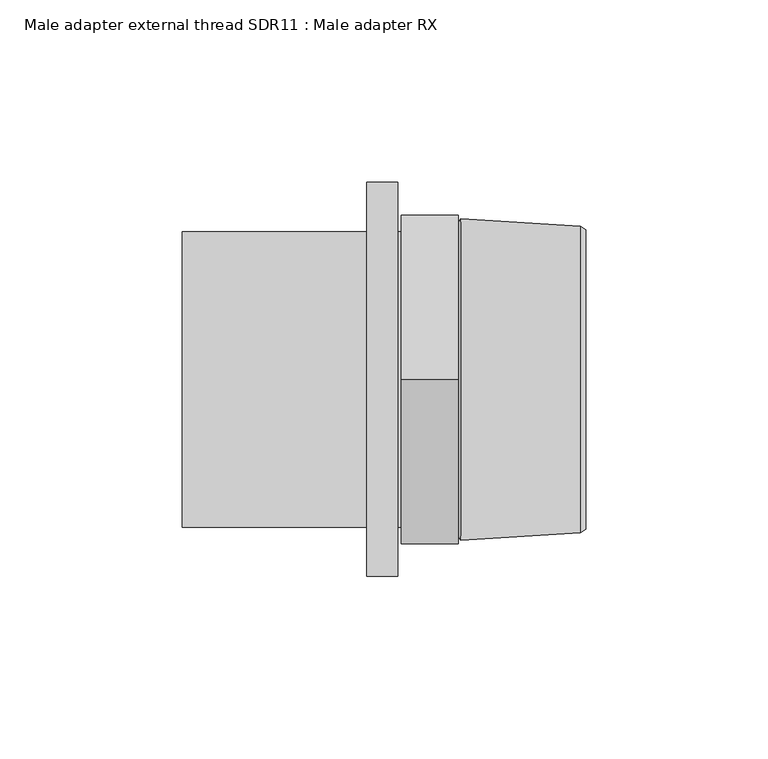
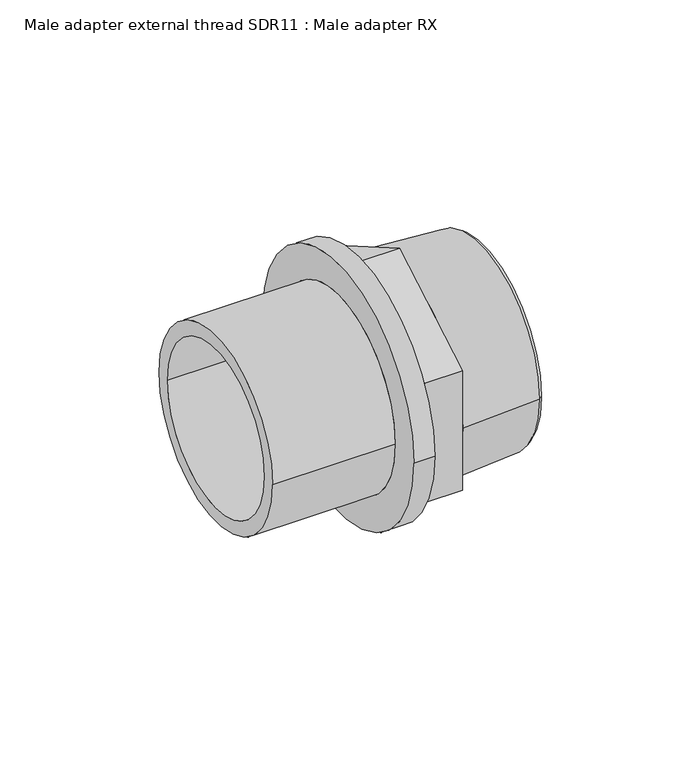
"""IFC4 building model written with IfcOpenShell, lengths in millimetres: pipe fitting geometry, Male adapter external thread SDR11 : Male adapter RX."""

from ifc_helpers import new_model, si_unit, frame, origin, place, context, project, spatial, polyline, circle_curve, outline, extrude, source, transform, mapped, element, save
from ifc_brep_helpers import plane_surface, cylinder_surface, revolved_surface, advanced_brep


def male_adapter_external_thread_sdr11_male_adapter_rx_7419d65c(model_context):
    return source(origin(), model_context, "Body", "SolidModel", [
        advanced_brep(
        [(-9.5, 40.5, 0.0), (-9.5, -40.5, 0.0), (-60.0, -40.5, 0.0), (-60.0, 40.5, 0.0), (-1.0, 54.0, 0.0), (-1.0, -54.0, 0.0), (-9.5, -54.0, 0.0), (-9.5, 54.0, 0.0), (0.0, 40.5, 0.0), (0.0, -40.5, 0.0), (-1.0, -40.5, 0.0), (-1.0, 40.5, 0.0), (-60.0, 34.5, 0.0), (-60.0, -34.5, 0.0), (0.0, -34.5, 0.0), (0.0, 34.5, 0.0)],
        [
            (0, 1, circle_curve(frame((-9.5, 0.0, 0.0), z_axis=(-1.0, 0.0, 0.0), x_axis=(0.0, -1.0, 0.0)), 40.5)),
            (1, 2),
            (2, 3, circle_curve(frame((-60.0, 0.0, 0.0), z_axis=(1.0, 0.0, 0.0), x_axis=(0.0, -1.0, 0.0)), 40.5)),
            (3, 0),
            (4, 5, circle_curve(frame((-1.0, 0.0, 0.0), z_axis=(-1.0, 0.0, 0.0), x_axis=(0.0, -1.0, 0.0)), 54.0)),
            (5, 6),
            (6, 7, circle_curve(frame((-9.5, 0.0, 0.0), z_axis=(1.0, 0.0, 0.0), x_axis=(0.0, -1.0, 0.0)), 54.0)),
            (7, 4),
            (8, 9, circle_curve(frame((0.0, 0.0, 0.0), z_axis=(-1.0, 0.0, 0.0), x_axis=(0.0, -1.0, 0.0)), 40.5)),
            (9, 10),
            (10, 11, circle_curve(frame((-1.0, 0.0, 0.0), z_axis=(1.0, 0.0, 0.0), x_axis=(0.0, -1.0, 0.0)), 40.5)),
            (11, 8),
            (12, 13, circle_curve(frame((-60.0, 0.0, 0.0), z_axis=(-1.0, 0.0, 0.0), x_axis=(0.0, -1.0, 0.0)), 34.5)),
            (13, 14),
            (14, 15, circle_curve(frame((0.0, 0.0, 0.0), z_axis=(1.0, 0.0, 0.0), x_axis=(0.0, -1.0, 0.0)), 34.5)),
            (15, 12),
            (2, 3, circle_curve(frame((-60.0, 0.0, 0.0), z_axis=(-1.0, 0.0, 0.0), x_axis=(0.0, 1.0, 0.0)), 40.5)),
            (12, 13, circle_curve(frame((-60.0, 0.0, 0.0), z_axis=(1.0, 0.0, 0.0), x_axis=(0.0, 1.0, 0.0)), 34.5)),
            (1, 0, circle_curve(frame((-9.5, 0.0, 0.0), z_axis=(-1.0, 0.0, 0.0), x_axis=(0.0, 1.0, 0.0)), 40.5)),
            (6, 7, circle_curve(frame((-9.5, 0.0, 0.0), z_axis=(-1.0, 0.0, 0.0), x_axis=(0.0, 1.0, 0.0)), 54.0)),
            (5, 4, circle_curve(frame((-1.0, 0.0, 0.0), z_axis=(-1.0, 0.0, 0.0), x_axis=(0.0, 1.0, 0.0)), 54.0)),
            (10, 11, circle_curve(frame((-1.0, 0.0, 0.0), z_axis=(-1.0, 0.0, 0.0), x_axis=(0.0, 1.0, 0.0)), 40.5)),
            (9, 8, circle_curve(frame((0.0, 0.0, 0.0), z_axis=(-1.0, 0.0, 0.0), x_axis=(0.0, 1.0, 0.0)), 40.5)),
            (14, 15, circle_curve(frame((0.0, 0.0, 0.0), z_axis=(-1.0, 0.0, 0.0), x_axis=(0.0, 1.0, 0.0)), 34.5)),
        ],
        [
            cylinder_surface(frame((0.0, 0.0, 0.0), z_axis=(1.0, 0.0, 0.0), x_axis=(0.0, -1.0, 0.0)), 40.5),
            cylinder_surface(frame((0.0, 0.0, 0.0), z_axis=(1.0, 0.0, 0.0), x_axis=(0.0, -1.0, 0.0)), 54.0),
            revolved_surface(polyline([(0.0, -34.5, 0.0), (-60.0, -34.5, 0.0)]), (0.0, 0.0, 0.0), (1.0, 0.0, 0.0)),
            plane_surface(frame((-60.0, 0.0, 0.0), z_axis=(-1.0, 0.0, 0.0), x_axis=(0.0, 1.0, 0.0))),
            cylinder_surface(frame((0.0, 0.0, 0.0), z_axis=(1.0, 0.0, 0.0), x_axis=(0.0, 1.0, 0.0)), 40.5),
            plane_surface(frame((-9.5, 0.0, 0.0), z_axis=(-1.0, 0.0, 0.0), x_axis=(0.0, 1.0, 0.0))),
            cylinder_surface(frame((0.0, 0.0, 0.0), z_axis=(1.0, 0.0, 0.0), x_axis=(0.0, 1.0, 0.0)), 54.0),
            plane_surface(frame((-1.0, 0.0, 0.0), z_axis=(1.0, 0.0, 0.0), x_axis=(0.0, 1.0, 0.0))),
            plane_surface(frame((0.0, 0.0, 0.0), z_axis=(1.0, 0.0, 0.0), x_axis=(0.0, 1.0, 0.0))),
            revolved_surface(polyline([(0.0, 34.5, 0.0), (-60.0, 34.5, 0.0)]), (0.0, 0.0, 0.0), (1.0, 0.0, 0.0)),
        ],
        [
            (0, [[1, 2, 3, 4]]),
            (1, [[5, 6, 7, 8]]),
            (0, [[9, 10, 11, 12]]),
            (2, [[13, 14, 15, 16]]),
            (3, [[17, -3], [18, -13]]),
            (4, [[19, -4, -17, -2]]),
            (5, [[20, -7], [-19, -1]]),
            (6, [[21, -8, -20, -6]]),
            (7, [[-21, -5], [22, -11]]),
            (4, [[23, -12, -22, -10]]),
            (8, [[-23, -9], [24, -15]]),
            (9, [[-18, -16, -24, -14]]),
        ],
    ),
        advanced_brep(
        [(16.7032803, 38.0, 0.0), (16.7032803, -38.0, 0.0), (50.5, -38.0, 0.0), (50.5, 38.0, 0.0), (15.6, 36.8967197, 0.0), (15.6, -36.8967197, 0.0), (16.3406902, 44.0, 0.0), (16.3406902, -44.0, 0.0), (15.6, -43.0, 0.0), (15.6, 43.0, 0.0), (49.0000007, 42.0, 0.0), (49.0000007, -42.0, 0.0), (50.5, 41.0, 0.0), (50.5, -41.0, 0.0)],
        [
            (0, 1, circle_curve(frame((16.7032803, 0.0, 0.0), z_axis=(-1.0, 0.0, 0.0), x_axis=(0.0, -1.0, 0.0)), 38.0)),
            (1, 2),
            (2, 3, circle_curve(frame((50.5, 0.0, 0.0), z_axis=(1.0, 0.0, 0.0), x_axis=(0.0, -1.0, 0.0)), 38.0)),
            (3, 0),
            (4, 5, circle_curve(frame((15.6, 0.0, 0.0), z_axis=(-1.0, 0.0, 0.0), x_axis=(0.0, -1.0, 0.0)), 36.8967197)),
            (5, 1),
            (0, 4),
            (6, 7, circle_curve(frame((16.3406902, 0.0, 0.0), z_axis=(-1.0, 0.0, 0.0), x_axis=(0.0, -1.0, 0.0)), 44.0)),
            (7, 8),
            (8, 9, circle_curve(frame((15.6, 0.0, 0.0), z_axis=(1.0, 0.0, 0.0), x_axis=(0.0, -1.0, 0.0)), 43.0)),
            (9, 6),
            (10, 11, circle_curve(frame((49.0000007, 0.0, 0.0), z_axis=(-1.0, 0.0, 0.0), x_axis=(0.0, -1.0, 0.0)), 42.0)),
            (11, 7),
            (6, 10),
            (12, 13, circle_curve(frame((50.5, 0.0, 0.0), z_axis=(-1.0, 0.0, 0.0), x_axis=(0.0, -1.0, 0.0)), 41.0)),
            (13, 11),
            (10, 12),
            (1, 0, circle_curve(frame((16.7032803, 0.0, 0.0), z_axis=(-1.0, 0.0, 0.0), x_axis=(0.0, 1.0, 0.0)), 38.0)),
            (3, 2, circle_curve(frame((50.5, 0.0, 0.0), z_axis=(1.0, 0.0, 0.0), x_axis=(0.0, 1.0, 0.0)), 38.0)),
            (5, 4, circle_curve(frame((15.6, 0.0, 0.0), z_axis=(-1.0, 0.0, 0.0), x_axis=(0.0, 1.0, 0.0)), 36.8967197)),
            (8, 9, circle_curve(frame((15.6, 0.0, 0.0), z_axis=(-1.0, 0.0, 0.0), x_axis=(0.0, 1.0, 0.0)), 43.0)),
            (7, 6, circle_curve(frame((16.3406902, 0.0, 0.0), z_axis=(-1.0, 0.0, 0.0), x_axis=(0.0, 1.0, 0.0)), 44.0)),
            (11, 10, circle_curve(frame((49.0000007, 0.0, 0.0), z_axis=(-1.0, 0.0, 0.0), x_axis=(0.0, 1.0, 0.0)), 42.0)),
            (13, 12, circle_curve(frame((50.5, 0.0, 0.0), z_axis=(-1.0, 0.0, 0.0), x_axis=(0.0, 1.0, 0.0)), 41.0)),
        ],
        [
            revolved_surface(polyline([(50.5, -38.0, 0.0), (16.7032803, -38.0, 0.0)]), (0.0, 0.0, 0.0), (1.0, 0.0, 0.0)),
            revolved_surface(polyline([(16.7032803, -38.0, 0.0), (15.6, -36.8967197, 0.0)]), (0.0, 0.0, 0.0), (1.0, 0.0, 0.0)),
            revolved_surface(polyline([(15.6, -43.0, 0.0), (16.3406902, -44.0, 0.0)]), (0.0, 0.0, 0.0), (1.0, 0.0, 0.0)),
            revolved_surface(polyline([(16.3406902, -44.0, 0.0), (49.0000007, -42.0, 0.0)]), (0.0, 0.0, 0.0), (1.0, 0.0, 0.0)),
            revolved_surface(polyline([(49.0000007, -42.0, 0.0), (50.5, -41.0, 0.0)]), (0.0, 0.0, 0.0), (1.0, 0.0, 0.0)),
            revolved_surface(polyline([(50.5, 38.0, 0.0), (16.7032803, 38.0, 0.0)]), (0.0, 0.0, 0.0), (1.0, 0.0, 0.0)),
            revolved_surface(polyline([(16.7032803, 38.0, 0.0), (15.6, 36.8967197, 0.0)]), (0.0, 0.0, 0.0), (1.0, 0.0, 0.0)),
            plane_surface(frame((15.6, 0.0, 0.0), z_axis=(-1.0, 0.0, 0.0), x_axis=(0.0, 1.0, 0.0))),
            revolved_surface(polyline([(15.6, 43.0, 0.0), (16.3406902, 44.0, 0.0)]), (0.0, 0.0, 0.0), (1.0, 0.0, 0.0)),
            revolved_surface(polyline([(16.3406902, 44.0, 0.0), (49.0000007, 42.0, 0.0)]), (0.0, 0.0, 0.0), (1.0, 0.0, 0.0)),
            revolved_surface(polyline([(49.0000007, 42.0, 0.0), (50.5, 41.0, 0.0)]), (0.0, 0.0, 0.0), (1.0, 0.0, 0.0)),
            plane_surface(frame((50.5, 0.0, 0.0), z_axis=(1.0, 0.0, 0.0), x_axis=(0.0, 1.0, 0.0))),
        ],
        [
            (0, [[1, 2, 3, 4]]),
            (1, [[5, 6, -1, 7]]),
            (2, [[8, 9, 10, 11]]),
            (3, [[12, 13, -8, 14]]),
            (4, [[15, 16, -12, 17]]),
            (5, [[18, -4, 19, -2]]),
            (6, [[20, -7, -18, -6]]),
            (7, [[21, -10], [-20, -5]]),
            (8, [[22, -11, -21, -9]]),
            (9, [[23, -14, -22, -13]]),
            (10, [[24, -17, -23, -16]]),
            (11, [[-24, -15], [-19, -3]]),
        ],
    ),
        extrude(outline(polyline([(-45.0, 25.9807621), (0.0, 51.9615242), (45.0, 25.9807621), (45.0, -25.9807621), (0.0, -51.9615242), (-45.0, -25.9807621), (-45.0, 25.9807621)])), frame((0.0, 0.0, 0.0), z_axis=(1.0, 0.0, 0.0), x_axis=(0.0, 1.0, 0.0)), (0.0, 0.0, 1.0), 15.6),
    ])


if __name__ == "__main__":
    model = new_model("IFC4")
    model_context = context("Model", 3, world=origin())
    ifc_project = project(units=[si_unit("LENGTHUNIT", "METRE", prefix="MILLI")], contexts=[model_context])
    site = spatial("IfcSite", under=ifc_project)
    building = spatial("IfcBuilding", under=site)
    placement = place(None, origin())
    male_adapter_external_thread_sdr11_male_adapter_rx_shape = male_adapter_external_thread_sdr11_male_adapter_rx_7419d65c(model_context)
    element("IfcPipeFitting", 1, ObjectType="Male adapter external thread SDR11 : Male adapter RX", at=placement, inside=building, context=model_context, shape_type="MappedRepresentation", body=[
        mapped(male_adapter_external_thread_sdr11_male_adapter_rx_shape, transform((0.0, 0.0, 0.0), x_axis=(1.0, 0.0, 0.0), y_axis=(0.0, 1.0, 0.0), z_axis=(0.0, 0.0, 1.0))),
    ])
    save(model, "model.ifc")
